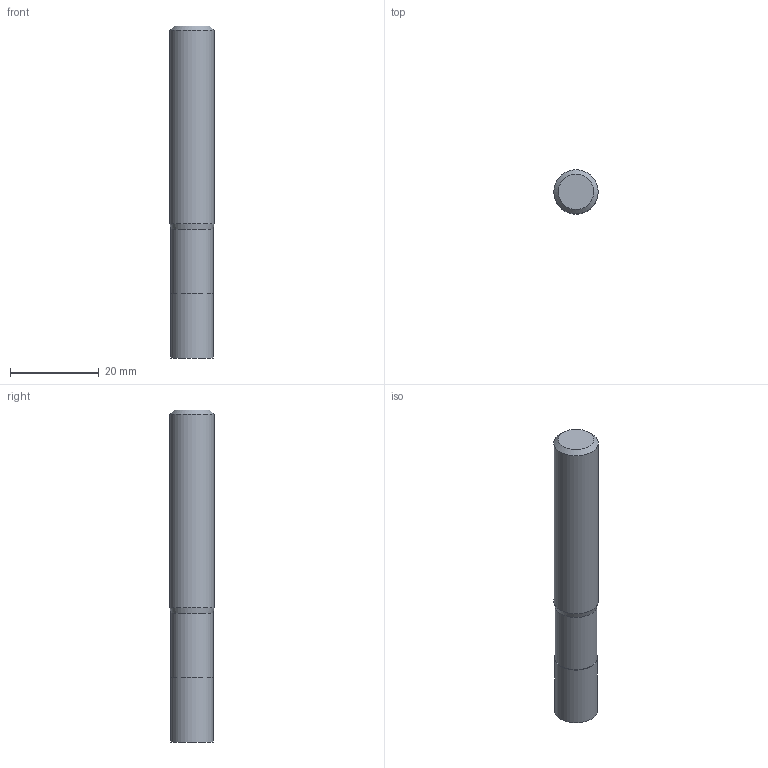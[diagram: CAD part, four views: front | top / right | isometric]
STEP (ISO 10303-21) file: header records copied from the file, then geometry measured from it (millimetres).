
FILE_DESCRIPTION((''),'2;1');
FILE_NAME('C:\Users\nsx150\AppData\Local\Temp\Mastercam 2021\EUJSUNXURU\TEMP.step','2021-04-22T10:29:50',(''),(''),'STEP Write','Mastercam 2021 ... CNC Software, Inc.','');
FILE_SCHEMA(('AUTOMOTIVE_DESIGN'));
Length unit declared in the file: millimetre
Products named in the file (1): None
Bounding box: 10 x 10 x 75 mm (x, y, z)
Volume: 5692.5 mm3; surface area: 2597.1 mm2
Topology: 2 solids, 2 shells, 9 faces, 12 edges, 7 vertices
Faces by surface type: plane 4, cylinder 3, cone 2
Full cylindrical faces by diameter (mm): 9.5 x1, 9.7 x1, 10 x1
Entity records: 211 total; most frequent: DIRECTION 36, CARTESIAN_POINT 25, AXIS2_PLACEMENT_3D 18, ORIENTED_EDGE 14, EDGE_LOOP 14, STYLED_ITEM 12, ADVANCED_FACE 9, FACE_BOUND 8
